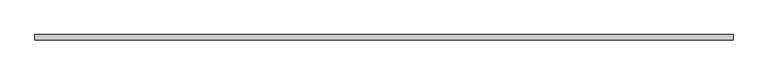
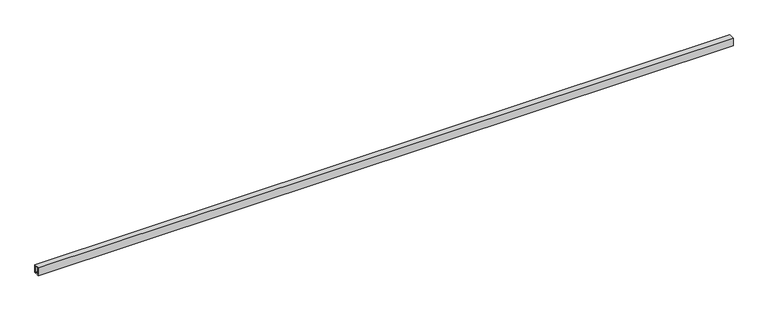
"""IFC4 building model written with IfcOpenShell, lengths in millimetres: unitary equipment geometry, NLRS_52_ME_UN_Geberit Pluvia montagerail_PRO_101957 : 363.863.00.1 Geberit Pluvia montagerail."""

from ifc_helpers import new_model, si_unit, frame, origin, place, context, project, spatial, polyline, outline, extrude, source, transform, mapped, element, save


def unitary_equipment_c2c89edb(model_context):
    return source(origin(), model_context, "Body", "SweptSolid", [
        extrude(outline(polyline([(20.0, 0.0), (20.0, -60.0), (8.5, -60.0), (8.5, -57.0), (17.0, -57.0), (17.0, -3.0), (-17.0, -3.0), (-17.0, -57.0), (-8.5, -57.0), (-8.5, -60.0), (-20.0, -60.0), (-20.0, 0.0), (20.0, 0.0)])), frame((0.0, 0.0, 0.0), z_axis=(1.0, 0.0, 0.0), x_axis=(0.0, 1.0, 0.0)), (0.0, 0.0, 1.0), 5000.0),
    ])


if __name__ == "__main__":
    model = new_model("IFC4")
    model_context = context("Model", 3, world=origin())
    ifc_project = project(units=[si_unit("LENGTHUNIT", "METRE", prefix="MILLI")], contexts=[model_context])
    site = spatial("IfcSite", under=ifc_project)
    building = spatial("IfcBuilding", under=site)
    placement = place(None, origin())
    unitary_equipment_shape = unitary_equipment_c2c89edb(model_context)
    element("IfcUnitaryEquipment", 1, ObjectType="NLRS_52_ME_UN_Geberit Pluvia montagerail_PRO_101957 : 363.863.00.1 Geberit Pluvia montagerail", at=placement, inside=building, context=model_context, shape_type="MappedRepresentation", body=[
        mapped(unitary_equipment_shape, transform((0.0, 0.0, 0.0), x_axis=(1.0, 0.0, 0.0), y_axis=(0.0, 1.0, 0.0), z_axis=(0.0, 0.0, 1.0))),
    ])
    save(model, "model.ifc")
